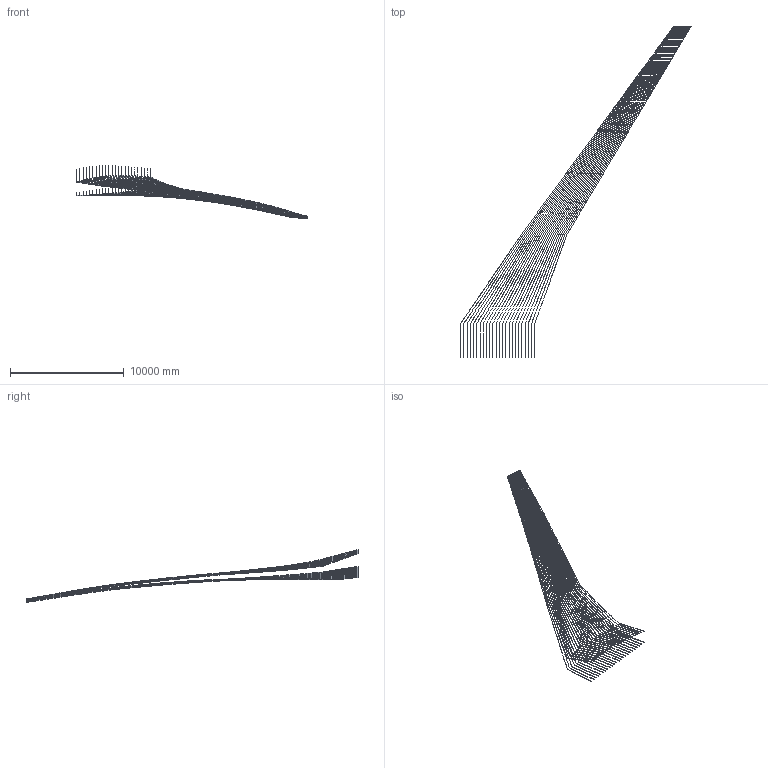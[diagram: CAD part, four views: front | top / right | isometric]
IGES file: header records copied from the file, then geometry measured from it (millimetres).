
Global section: file name: E:\temp\Stringers_chordal_2.igs; native system: NX V8.5; preprocessor: SIEMENS PLM Software NX 8.5; date: 20140115.094442; units: inch
Bounding box: 20298.94 x 29241.83 x 4631.44 mm (x, y, z)
Surface area: 83840215.3 mm2 (no closed solid volume)
Topology: 0 solids, 0 shells, 144 faces, 4354 edges, 4354 vertices
Faces by surface type: bspline 144
